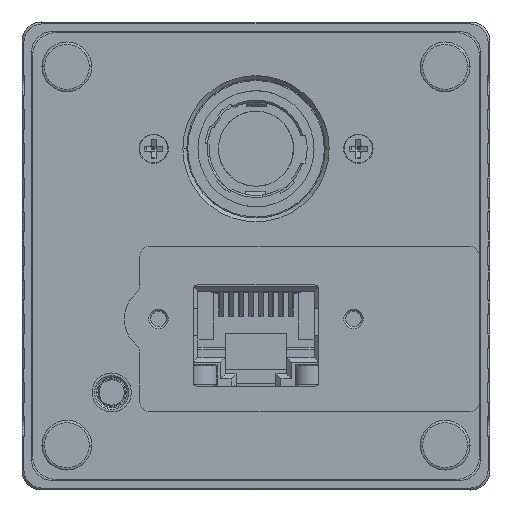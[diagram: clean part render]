
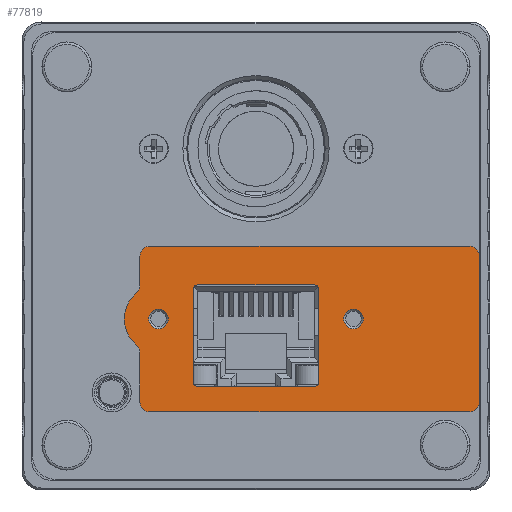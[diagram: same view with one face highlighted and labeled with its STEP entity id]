
A CAD part, front view. The second image highlights one B-rep face of the part: STEP entity #77819.
In plain terms, the highlighted planar face has unit normal (0, -1, 0).
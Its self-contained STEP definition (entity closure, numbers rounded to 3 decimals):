
#24098=DIRECTION('',(1.,0.,0.));
#24099=VECTOR('',#24098,11.91);
#24100=CARTESIAN_POINT('',(-5.955,-60.23,-2.945));
#24101=LINE('',#24100,#24099);
#24114=DIRECTION('',(0.,0.,1.));
#24115=VECTOR('',#24114,9.45);
#24116=CARTESIAN_POINT('',(-6.455,-60.23,-12.895));
#24117=LINE('',#24116,#24115);
#24130=DIRECTION('',(-1.,0.,0.));
#24131=VECTOR('',#24130,11.91);
#24132=CARTESIAN_POINT('',(5.955,-60.23,-13.395));
#24133=LINE('',#24132,#24131);
#24150=DIRECTION('',(0.,0.,-1.));
#24151=VECTOR('',#24150,9.45);
#24152=CARTESIAN_POINT('',(6.455,-60.23,-3.445));
#24153=LINE('',#24152,#24151);
#24158=CARTESIAN_POINT('',(21.9,-60.23,-15.));
#24159=DIRECTION('',(0.,1.,0.));
#24160=DIRECTION('',(1.,0.,0.));
#24161=AXIS2_PLACEMENT_3D('',#24158,#24159,#24160);
#24163=DIRECTION('',(-1.,0.,0.));
#24164=VECTOR('',#24163,32.8);
#24165=CARTESIAN_POINT('',(21.9,-60.23,-16.));
#24166=LINE('',#24165,#24164);
#24167=CARTESIAN_POINT('',(-10.9,-60.23,-15.));
#24168=DIRECTION('',(0.,1.,0.));
#24169=DIRECTION('',(0.,0.,-1.));
#24170=AXIS2_PLACEMENT_3D('',#24167,#24168,#24169);
#24172=DIRECTION('',(0.,0.,1.));
#24173=VECTOR('',#24172,5.099);
#24174=CARTESIAN_POINT('',(-11.9,-60.23,-15.));
#24175=LINE('',#24174,#24173);
#24176=CARTESIAN_POINT('',(-12.9,-60.23,-9.901));
#24177=DIRECTION('',(0.,-1.,0.));
#24178=DIRECTION('',(1.,0.,0.));
#24179=AXIS2_PLACEMENT_3D('',#24176,#24177,#24178);
#24181=CARTESIAN_POINT('',(-10.,-60.23,-6.46));
#24182=DIRECTION('',(0.,1.,0.));
#24183=DIRECTION('',(-0.644,0.,-0.765));
#24184=AXIS2_PLACEMENT_3D('',#24181,#24182,#24183);
#24186=CARTESIAN_POINT('',(-12.9,-60.23,-3.019));
#24187=DIRECTION('',(0.,-1.,0.));
#24188=DIRECTION('',(0.644,0.,-0.765));
#24189=AXIS2_PLACEMENT_3D('',#24186,#24187,#24188);
#24191=DIRECTION('',(0.,0.,1.));
#24192=VECTOR('',#24191,3.019);
#24193=CARTESIAN_POINT('',(-11.9,-60.23,-3.019));
#24194=LINE('',#24193,#24192);
#24195=CARTESIAN_POINT('',(-10.9,-60.23,0.));
#24196=DIRECTION('',(0.,1.,0.));
#24197=DIRECTION('',(-1.,0.,0.));
#24198=AXIS2_PLACEMENT_3D('',#24195,#24196,#24197);
#24200=CARTESIAN_POINT('',(21.9,-60.23,0.));
#24201=DIRECTION('',(0.,1.,0.));
#24202=DIRECTION('',(0.,0.,1.));
#24203=AXIS2_PLACEMENT_3D('',#24200,#24201,#24202);
#24205=DIRECTION('',(0.,0.,-1.));
#24206=VECTOR('',#24205,15.);
#24207=CARTESIAN_POINT('',(22.9,-60.23,0.));
#24208=LINE('',#24207,#24206);
#24209=CARTESIAN_POINT('',(-10.,-60.23,-6.46));
#24210=DIRECTION('',(0.,-1.,0.));
#24211=DIRECTION('',(-1.,0.,0.));
#24212=AXIS2_PLACEMENT_3D('',#24209,#24210,#24211);
#24214=CARTESIAN_POINT('',(10.,-60.23,-6.46));
#24215=DIRECTION('',(0.,-1.,0.));
#24216=DIRECTION('',(-1.,0.,0.));
#24217=AXIS2_PLACEMENT_3D('',#24214,#24215,#24216);
#24219=CARTESIAN_POINT('',(-5.955,-60.23,-12.895));
#24220=DIRECTION('',(0.,-1.,0.));
#24221=DIRECTION('',(-1.,0.,0.));
#24222=AXIS2_PLACEMENT_3D('',#24219,#24220,#24221);
#24224=CARTESIAN_POINT('',(5.955,-60.23,-12.895));
#24225=DIRECTION('',(0.,-1.,0.));
#24226=DIRECTION('',(0.,0.,-1.));
#24227=AXIS2_PLACEMENT_3D('',#24224,#24225,#24226);
#24229=CARTESIAN_POINT('',(5.955,-60.23,-3.445));
#24230=DIRECTION('',(0.,-1.,0.));
#24231=DIRECTION('',(1.,0.,0.));
#24232=AXIS2_PLACEMENT_3D('',#24229,#24230,#24231);
#24234=CARTESIAN_POINT('',(-5.955,-60.23,-3.445));
#24235=DIRECTION('',(0.,-1.,0.));
#24236=DIRECTION('',(0.,0.,1.));
#24237=AXIS2_PLACEMENT_3D('',#24234,#24235,#24236);
#24287=DIRECTION('',(-1.,0.,0.));
#24288=VECTOR('',#24287,32.8);
#24289=CARTESIAN_POINT('',(21.9,-60.23,1.));
#24290=LINE('',#24289,#24288);
#24307=CARTESIAN_POINT('',(-10.,-60.23,-6.46));
#24308=DIRECTION('',(0.,1.,0.));
#24309=DIRECTION('',(-1.,0.,0.));
#24310=AXIS2_PLACEMENT_3D('',#24307,#24308,#24309);
#24348=CARTESIAN_POINT('',(10.,-60.23,-6.46));
#24349=DIRECTION('',(0.,1.,0.));
#24350=DIRECTION('',(-1.,0.,0.));
#24351=AXIS2_PLACEMENT_3D('',#24348,#24349,#24350);
#39197=CARTESIAN_POINT('',(22.9,-60.23,-15.));
#39198=VERTEX_POINT('',#39197);
#39199=CARTESIAN_POINT('',(22.9,-60.23,0.));
#39200=VERTEX_POINT('',#39199);
#39275=CARTESIAN_POINT('',(21.9,-60.23,-16.));
#39276=VERTEX_POINT('',#39275);
#39279=CARTESIAN_POINT('',(-10.9,-60.23,-16.));
#39280=VERTEX_POINT('',#39279);
#39281=CARTESIAN_POINT('',(-11.9,-60.23,-15.));
#39282=VERTEX_POINT('',#39281);
#39283=CARTESIAN_POINT('',(-11.9,-60.23,-9.901));
#39284=VERTEX_POINT('',#39283);
#39285=CARTESIAN_POINT('',(-11.9,-60.23,0.));
#39286=VERTEX_POINT('',#39285);
#39287=CARTESIAN_POINT('',(-11.9,-60.23,-3.019));
#39288=VERTEX_POINT('',#39287);
#39289=CARTESIAN_POINT('',(-12.256,-60.23,-9.136));
#39290=VERTEX_POINT('',#39289);
#39291=CARTESIAN_POINT('',(-12.256,-60.23,-3.784));
#39292=VERTEX_POINT('',#39291);
#39293=CARTESIAN_POINT('',(-6.455,-60.23,-12.895));
#39294=CARTESIAN_POINT('',(-5.955,-60.23,-13.395));
#39295=VERTEX_POINT('',#39293);
#39296=VERTEX_POINT('',#39294);
#39297=CARTESIAN_POINT('',(5.955,-60.23,-13.395));
#39298=VERTEX_POINT('',#39297);
#39299=CARTESIAN_POINT('',(6.455,-60.23,-12.895));
#39300=VERTEX_POINT('',#39299);
#39301=CARTESIAN_POINT('',(6.455,-60.23,-3.445));
#39302=VERTEX_POINT('',#39301);
#39303=CARTESIAN_POINT('',(5.955,-60.23,-2.945));
#39304=VERTEX_POINT('',#39303);
#39305=CARTESIAN_POINT('',(-5.955,-60.23,-2.945));
#39306=VERTEX_POINT('',#39305);
#39307=CARTESIAN_POINT('',(-6.455,-60.23,-3.445));
#39308=VERTEX_POINT('',#39307);
#39309=CARTESIAN_POINT('',(-11.,-60.23,-6.46));
#39310=CARTESIAN_POINT('',(-9.,-60.23,-6.46));
#39311=VERTEX_POINT('',#39309);
#39312=VERTEX_POINT('',#39310);
#39313=CARTESIAN_POINT('',(9.,-60.23,-6.46));
#39314=CARTESIAN_POINT('',(11.,-60.23,-6.46));
#39315=VERTEX_POINT('',#39313);
#39316=VERTEX_POINT('',#39314);
#39317=CARTESIAN_POINT('',(-10.9,-60.23,1.));
#39318=VERTEX_POINT('',#39317);
#39319=CARTESIAN_POINT('',(21.9,-60.23,1.));
#39320=VERTEX_POINT('',#39319);
#77767=CARTESIAN_POINT('',(4.696,-60.23,-7.5));
#77768=DIRECTION('',(0.,1.,0.));
#77769=DIRECTION('',(0.,0.,1.));
#77770=AXIS2_PLACEMENT_3D('',#77767,#77768,#77769);
#77771=PLANE('',#77770);
#77773=ORIENTED_EDGE('',*,*,#77772,.T.);
#77775=ORIENTED_EDGE('',*,*,#77774,.T.);
#77777=ORIENTED_EDGE('',*,*,#77776,.T.);
#77779=ORIENTED_EDGE('',*,*,#77778,.T.);
#77781=ORIENTED_EDGE('',*,*,#77780,.T.);
#77783=ORIENTED_EDGE('',*,*,#77782,.T.);
#77785=ORIENTED_EDGE('',*,*,#77784,.T.);
#77787=ORIENTED_EDGE('',*,*,#77786,.T.);
#77789=ORIENTED_EDGE('',*,*,#77788,.T.);
#77791=ORIENTED_EDGE('',*,*,#77790,.F.);
#77793=ORIENTED_EDGE('',*,*,#77792,.T.);
#77794=ORIENTED_EDGE('',*,*,#47033,.T.);
#77795=EDGE_LOOP('',(#77773,#77775,#77777,#77779,#77781,#77783,#77785,#77787,
#77789,#77791,#77793,#77794));
#77796=FACE_OUTER_BOUND('',#77795,.F.);
#77798=ORIENTED_EDGE('',*,*,#77797,.T.);
#77800=ORIENTED_EDGE('',*,*,#77799,.F.);
#77801=EDGE_LOOP('',(#77798,#77800));
#77802=FACE_BOUND('',#77801,.F.);
#77804=ORIENTED_EDGE('',*,*,#77803,.T.);
#77806=ORIENTED_EDGE('',*,*,#77805,.F.);
#77807=EDGE_LOOP('',(#77804,#77806));
#77808=FACE_BOUND('',#77807,.F.);
#77809=ORIENTED_EDGE('',*,*,#77706,.T.);
#77810=ORIENTED_EDGE('',*,*,#77720,.F.);
#77811=ORIENTED_EDGE('',*,*,#77734,.T.);
#77812=ORIENTED_EDGE('',*,*,#77748,.F.);
#77813=ORIENTED_EDGE('',*,*,#77761,.T.);
#77814=ORIENTED_EDGE('',*,*,#77663,.F.);
#77815=ORIENTED_EDGE('',*,*,#77678,.T.);
#77816=ORIENTED_EDGE('',*,*,#77692,.F.);
#77817=EDGE_LOOP('',(#77809,#77810,#77811,#77812,#77813,#77814,#77815,#77816));
#77818=FACE_BOUND('',#77817,.F.);
#77819=ADVANCED_FACE('',(#77796,#77802,#77808,#77818),#77771,.F.);
#24162=CIRCLE('',#24161,1.);
#24171=CIRCLE('',#24170,1.);
#24180=CIRCLE('',#24179,1.);
#24185=CIRCLE('',#24184,3.5);
#24190=CIRCLE('',#24189,1.);
#24199=CIRCLE('',#24198,1.);
#24204=CIRCLE('',#24203,1.);
#24213=CIRCLE('',#24212,1.);
#24218=CIRCLE('',#24217,1.);
#24223=CIRCLE('',#24222,0.5);
#24228=CIRCLE('',#24227,0.5);
#24233=CIRCLE('',#24232,0.5);
#24238=CIRCLE('',#24237,0.5);
#24311=CIRCLE('',#24310,1.);
#24352=CIRCLE('',#24351,1.);
#47033=EDGE_CURVE('',#39200,#39198,#24208,.T.);
#77663=EDGE_CURVE('',#39306,#39304,#24101,.T.);
#77678=EDGE_CURVE('',#39306,#39308,#24238,.T.);
#77692=EDGE_CURVE('',#39295,#39308,#24117,.T.);
#77706=EDGE_CURVE('',#39295,#39296,#24223,.T.);
#77720=EDGE_CURVE('',#39298,#39296,#24133,.T.);
#77734=EDGE_CURVE('',#39298,#39300,#24228,.T.);
#77748=EDGE_CURVE('',#39302,#39300,#24153,.T.);
#77761=EDGE_CURVE('',#39302,#39304,#24233,.T.);
#77772=EDGE_CURVE('',#39198,#39276,#24162,.T.);
#77774=EDGE_CURVE('',#39276,#39280,#24166,.T.);
#77776=EDGE_CURVE('',#39280,#39282,#24171,.T.);
#77778=EDGE_CURVE('',#39282,#39284,#24175,.T.);
#77780=EDGE_CURVE('',#39284,#39290,#24180,.T.);
#77782=EDGE_CURVE('',#39290,#39292,#24185,.T.);
#77784=EDGE_CURVE('',#39292,#39288,#24190,.T.);
#77786=EDGE_CURVE('',#39288,#39286,#24194,.T.);
#77788=EDGE_CURVE('',#39286,#39318,#24199,.T.);
#77790=EDGE_CURVE('',#39320,#39318,#24290,.T.);
#77792=EDGE_CURVE('',#39320,#39200,#24204,.T.);
#77797=EDGE_CURVE('',#39311,#39312,#24213,.T.);
#77799=EDGE_CURVE('',#39311,#39312,#24311,.T.);
#77803=EDGE_CURVE('',#39315,#39316,#24218,.T.);
#77805=EDGE_CURVE('',#39315,#39316,#24352,.T.);
